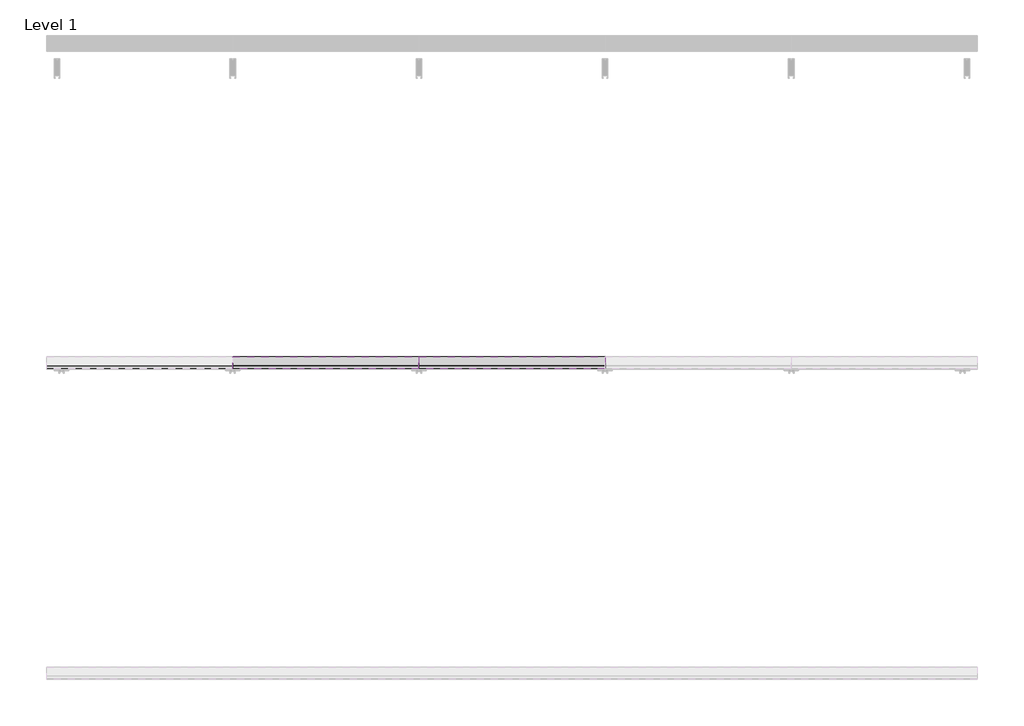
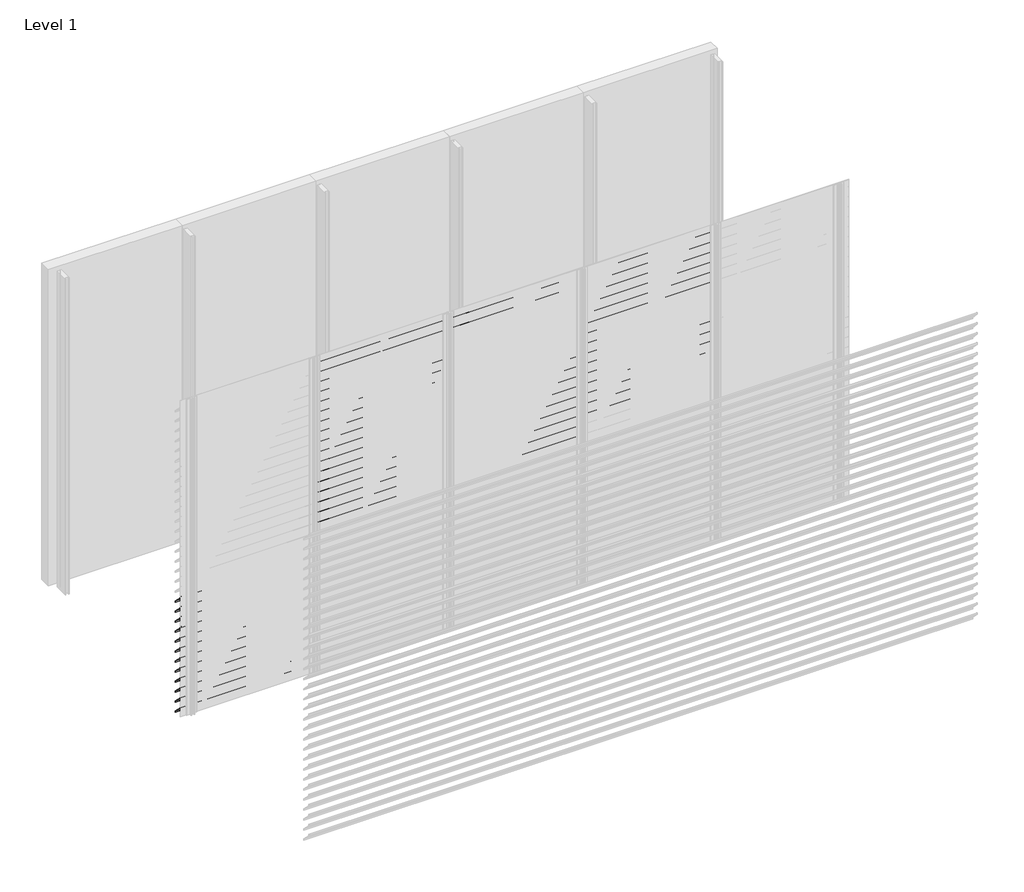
# One storey, part 4 of 24: 89 proxies.
"""IFC4 building model written with IfcOpenShell, lengths in millimetres."""

from ifc_helpers import new_model, si_unit, frame, origin, place, context, project, spatial, polyline, outline, extrude, element, save

model = new_model("IFC4")

# Units and contexts
model_context = context("Model", 3, world=origin())
ifc_project = project(units=[si_unit("LENGTHUNIT", "METRE", prefix="MILLI")], contexts=[model_context])

# Site, building, storey
site = spatial("IfcSite", under=ifc_project)
building = spatial("IfcBuilding", under=site)
storey = spatial("IfcBuildingStorey", under=building, Name="Level 1", Elevation=0.0)

# Proxies
placement = place(None, origin())
element("IfcBuildingElementProxy", 1, Name="Wall Sweeps", at=placement, inside=storey, context=model_context, shape_type="SweptSolid", body=[
    extrude(outline(polyline([(-53920.8, 1037.9), (-53922.3, 1037.9), (-53922.3, 1050.1762333), (-53998.0, 1125.4561238), (-53998.0, 1140.0), (-53996.5, 1140.0), (-53996.5, 1126.0798905), (-53920.8, 1050.8), (-53920.8, 1037.9)])), frame((0.0, 0.0, 0.0), z_axis=(1.0, 0.0, 0.0), x_axis=(0.0, 1.0, 0.0)), (0.0, 0.0, 1.0), 1200.0),
])
element("IfcBuildingElementProxy", 2, Name="Wall Sweeps", at=placement, inside=storey, context=model_context, shape_type="SweptSolid", body=[
    extrude(outline(polyline([(-53920.8, 942.9), (-53922.3, 942.9), (-53922.3, 955.1762333), (-53998.0, 1030.4561238), (-53998.0, 1045.0), (-53996.5, 1045.0), (-53996.5, 1031.0798905), (-53920.8, 955.8), (-53920.8, 942.9)])), frame((0.0, 0.0, 0.0), z_axis=(1.0, 0.0, 0.0), x_axis=(0.0, 1.0, 0.0)), (0.0, 0.0, 1.0), 1200.0),
])
element("IfcBuildingElementProxy", 3, Name="Wall Sweeps", at=placement, inside=storey, context=model_context, shape_type="SweptSolid", body=[
    extrude(outline(polyline([(-53920.8, 847.9), (-53922.3, 847.9), (-53922.3, 860.1762333), (-53998.0, 935.4561238), (-53998.0, 950.0), (-53996.5, 950.0), (-53996.5, 936.0798905), (-53920.8, 860.8), (-53920.8, 847.9)])), frame((0.0, 0.0, 0.0), z_axis=(1.0, 0.0, 0.0), x_axis=(0.0, 1.0, 0.0)), (0.0, 0.0, 1.0), 1200.0),
])
element("IfcBuildingElementProxy", 4, Name="Wall Sweeps", at=placement, inside=storey, context=model_context, shape_type="SweptSolid", body=[
    extrude(outline(polyline([(-53920.8, 752.9), (-53922.3, 752.9), (-53922.3, 765.1762333), (-53998.0, 840.4561238), (-53998.0, 855.0), (-53996.5, 855.0), (-53996.5, 841.0798905), (-53920.8, 765.8), (-53920.8, 752.9)])), frame((0.0, 0.0, 0.0), z_axis=(1.0, 0.0, 0.0), x_axis=(0.0, 1.0, 0.0)), (0.0, 0.0, 1.0), 1200.0),
])
element("IfcBuildingElementProxy", 5, Name="Wall Sweeps", at=placement, inside=storey, context=model_context, shape_type="SweptSolid", body=[
    extrude(outline(polyline([(-53920.8, 657.9), (-53922.3, 657.9), (-53922.3, 670.1762333), (-53998.0, 745.4561238), (-53998.0, 760.0), (-53996.5, 760.0), (-53996.5, 746.0798905), (-53920.8, 670.8), (-53920.8, 657.9)])), frame((0.0, 0.0, 0.0), z_axis=(1.0, 0.0, 0.0), x_axis=(0.0, 1.0, 0.0)), (0.0, 0.0, 1.0), 1200.0),
])
element("IfcBuildingElementProxy", 6, Name="Wall Sweeps", at=placement, inside=storey, context=model_context, shape_type="SweptSolid", body=[
    extrude(outline(polyline([(-53920.8, 562.9), (-53922.3, 562.9), (-53922.3, 575.1762333), (-53998.0, 650.4561238), (-53998.0, 665.0), (-53996.5, 665.0), (-53996.5, 651.0798905), (-53920.8, 575.8), (-53920.8, 562.9)])), frame((0.0, 0.0, 0.0), z_axis=(1.0, 0.0, 0.0), x_axis=(0.0, 1.0, 0.0)), (0.0, 0.0, 1.0), 1200.0),
])
element("IfcBuildingElementProxy", 7, Name="Wall Sweeps", at=placement, inside=storey, context=model_context, shape_type="SweptSolid", body=[
    extrude(outline(polyline([(-53920.8, 467.9), (-53922.3, 467.9), (-53922.3, 480.1762333), (-53998.0, 555.4561238), (-53998.0, 570.0), (-53996.5, 570.0), (-53996.5, 556.0798905), (-53920.8, 480.8), (-53920.8, 467.9)])), frame((0.0, 0.0, 0.0), z_axis=(1.0, 0.0, 0.0), x_axis=(0.0, 1.0, 0.0)), (0.0, 0.0, 1.0), 1200.0),
])
element("IfcBuildingElementProxy", 8, Name="Wall Sweeps", at=placement, inside=storey, context=model_context, shape_type="SweptSolid", body=[
    extrude(outline(polyline([(-53920.8, 372.9), (-53922.3, 372.9), (-53922.3, 385.1762333), (-53998.0, 460.4561238), (-53998.0, 475.0), (-53996.5, 475.0), (-53996.5, 461.0798905), (-53920.8, 385.8), (-53920.8, 372.9)])), frame((0.0, 0.0, 0.0), z_axis=(1.0, 0.0, 0.0), x_axis=(0.0, 1.0, 0.0)), (0.0, 0.0, 1.0), 1200.0),
])
element("IfcBuildingElementProxy", 9, Name="Wall Sweeps", at=placement, inside=storey, context=model_context, shape_type="SweptSolid", body=[
    extrude(outline(polyline([(-53920.8, 277.9), (-53922.3, 277.9), (-53922.3, 290.1762333), (-53998.0, 365.4561238), (-53998.0, 380.0), (-53996.5, 380.0), (-53996.5, 366.0798905), (-53920.8, 290.8), (-53920.8, 277.9)])), frame((0.0, 0.0, 0.0), z_axis=(1.0, 0.0, 0.0), x_axis=(0.0, 1.0, 0.0)), (0.0, 0.0, 1.0), 1200.0),
])
element("IfcBuildingElementProxy", 10, Name="Wall Sweeps", at=placement, inside=storey, context=model_context, shape_type="SweptSolid", body=[
    extrude(outline(polyline([(-53920.8, 182.9), (-53922.3, 182.9), (-53922.3, 195.1762333), (-53998.0, 270.4561238), (-53998.0, 285.0), (-53996.5, 285.0), (-53996.5, 271.0798905), (-53920.8, 195.8), (-53920.8, 182.9)])), frame((0.0, 0.0, 0.0), z_axis=(1.0, 0.0, 0.0), x_axis=(0.0, 1.0, 0.0)), (0.0, 0.0, 1.0), 1200.0),
])
element("IfcBuildingElementProxy", 11, Name="Wall Sweeps", at=placement, inside=storey, context=model_context, shape_type="SweptSolid", body=[
    extrude(outline(polyline([(-53920.8, 87.9), (-53922.3, 87.9), (-53922.3, 100.1762333), (-53998.0, 175.4561238), (-53998.0, 190.0), (-53996.5, 190.0), (-53996.5, 176.0798905), (-53920.8, 100.8), (-53920.8, 87.9)])), frame((0.0, 0.0, 0.0), z_axis=(1.0, 0.0, 0.0), x_axis=(0.0, 1.0, 0.0)), (0.0, 0.0, 1.0), 1200.0),
])
element("IfcBuildingElementProxy", 12, Name="Wall Sweeps", at=placement, inside=storey, context=model_context, shape_type="SweptSolid", body=[
    extrude(outline(polyline([(-53920.8, -7.1), (-53922.3, -7.1), (-53922.3, 5.1762333), (-53998.0, 80.4561238), (-53998.0, 95.0), (-53996.5, 95.0), (-53996.5, 81.0798905), (-53920.8, 5.8), (-53920.8, -7.1)])), frame((0.0, 0.0, 0.0), z_axis=(1.0, 0.0, 0.0), x_axis=(0.0, 1.0, 0.0)), (0.0, 0.0, 1.0), 1200.0),
])
element("IfcBuildingElementProxy", 13, Name="Wall Sweeps", at=placement, inside=storey, context=model_context, shape_type="SweptSolid", body=[
    extrude(outline(polyline([(-53920.8, 2842.9), (-53922.3, 2842.9), (-53922.3, 2855.1762333), (-53998.0, 2930.4561238), (-53998.0, 2945.0), (-53996.5, 2945.0), (-53996.5, 2931.0798905), (-53920.8, 2855.8), (-53920.8, 2842.9)])), frame((1200.0, 0.0, 0.0), z_axis=(1.0, 0.0, 0.0), x_axis=(0.0, 1.0, 0.0)), (0.0, 0.0, 1.0), 1200.0),
])
element("IfcBuildingElementProxy", 14, Name="Wall Sweeps", at=placement, inside=storey, context=model_context, shape_type="SweptSolid", body=[
    extrude(outline(polyline([(-53920.8, 2747.9), (-53922.3, 2747.9), (-53922.3, 2760.1762333), (-53998.0, 2835.4561238), (-53998.0, 2850.0), (-53996.5, 2850.0), (-53996.5, 2836.0798905), (-53920.8, 2760.8), (-53920.8, 2747.9)])), frame((1200.0, 0.0, 0.0), z_axis=(1.0, 0.0, 0.0), x_axis=(0.0, 1.0, 0.0)), (0.0, 0.0, 1.0), 1200.0),
])
element("IfcBuildingElementProxy", 15, Name="Wall Sweeps", at=placement, inside=storey, context=model_context, shape_type="SweptSolid", body=[
    extrude(outline(polyline([(-53920.8, 2652.9), (-53922.3, 2652.9), (-53922.3, 2665.1762333), (-53998.0, 2740.4561238), (-53998.0, 2755.0), (-53996.5, 2755.0), (-53996.5, 2741.0798905), (-53920.8, 2665.8), (-53920.8, 2652.9)])), frame((1200.0, 0.0, 0.0), z_axis=(1.0, 0.0, 0.0), x_axis=(0.0, 1.0, 0.0)), (0.0, 0.0, 1.0), 1200.0),
])
element("IfcBuildingElementProxy", 16, Name="Wall Sweeps", at=placement, inside=storey, context=model_context, shape_type="SweptSolid", body=[
    extrude(outline(polyline([(-53920.8, 2557.9), (-53922.3, 2557.9), (-53922.3, 2570.1762333), (-53998.0, 2645.4561238), (-53998.0, 2660.0), (-53996.5, 2660.0), (-53996.5, 2646.0798905), (-53920.8, 2570.8), (-53920.8, 2557.9)])), frame((1200.0, 0.0, 0.0), z_axis=(1.0, 0.0, 0.0), x_axis=(0.0, 1.0, 0.0)), (0.0, 0.0, 1.0), 1200.0),
])
element("IfcBuildingElementProxy", 17, Name="Wall Sweeps", at=placement, inside=storey, context=model_context, shape_type="SweptSolid", body=[
    extrude(outline(polyline([(-53920.8, 2462.9), (-53922.3, 2462.9), (-53922.3, 2475.1762333), (-53998.0, 2550.4561238), (-53998.0, 2565.0), (-53996.5, 2565.0), (-53996.5, 2551.0798905), (-53920.8, 2475.8), (-53920.8, 2462.9)])), frame((1200.0, 0.0, 0.0), z_axis=(1.0, 0.0, 0.0), x_axis=(0.0, 1.0, 0.0)), (0.0, 0.0, 1.0), 1200.0),
])
element("IfcBuildingElementProxy", 18, Name="Wall Sweeps", at=placement, inside=storey, context=model_context, shape_type="SweptSolid", body=[
    extrude(outline(polyline([(-53920.8, 2367.9), (-53922.3, 2367.9), (-53922.3, 2380.1762333), (-53998.0, 2455.4561238), (-53998.0, 2470.0), (-53996.5, 2470.0), (-53996.5, 2456.0798905), (-53920.8, 2380.8), (-53920.8, 2367.9)])), frame((1200.0, 0.0, 0.0), z_axis=(1.0, 0.0, 0.0), x_axis=(0.0, 1.0, 0.0)), (0.0, 0.0, 1.0), 1200.0),
])
element("IfcBuildingElementProxy", 19, Name="Wall Sweeps", at=placement, inside=storey, context=model_context, shape_type="SweptSolid", body=[
    extrude(outline(polyline([(-53920.8, 2272.9), (-53922.3, 2272.9), (-53922.3, 2285.1762333), (-53998.0, 2360.4561238), (-53998.0, 2375.0), (-53996.5, 2375.0), (-53996.5, 2361.0798905), (-53920.8, 2285.8), (-53920.8, 2272.9)])), frame((1200.0, 0.0, 0.0), z_axis=(1.0, 0.0, 0.0), x_axis=(0.0, 1.0, 0.0)), (0.0, 0.0, 1.0), 1200.0),
])
element("IfcBuildingElementProxy", 20, Name="Wall Sweeps", at=placement, inside=storey, context=model_context, shape_type="SweptSolid", body=[
    extrude(outline(polyline([(-53920.8, 2177.9), (-53922.3, 2177.9), (-53922.3, 2190.1762333), (-53998.0, 2265.4561238), (-53998.0, 2280.0), (-53996.5, 2280.0), (-53996.5, 2266.0798905), (-53920.8, 2190.8), (-53920.8, 2177.9)])), frame((1200.0, 0.0, 0.0), z_axis=(1.0, 0.0, 0.0), x_axis=(0.0, 1.0, 0.0)), (0.0, 0.0, 1.0), 1200.0),
])
element("IfcBuildingElementProxy", 21, Name="Wall Sweeps", at=placement, inside=storey, context=model_context, shape_type="SweptSolid", body=[
    extrude(outline(polyline([(-53920.8, 2082.9), (-53922.3, 2082.9), (-53922.3, 2095.1762333), (-53998.0, 2170.4561238), (-53998.0, 2185.0), (-53996.5, 2185.0), (-53996.5, 2171.0798905), (-53920.8, 2095.8), (-53920.8, 2082.9)])), frame((1200.0, 0.0, 0.0), z_axis=(1.0, 0.0, 0.0), x_axis=(0.0, 1.0, 0.0)), (0.0, 0.0, 1.0), 1200.0),
])
element("IfcBuildingElementProxy", 22, Name="Wall Sweeps", at=placement, inside=storey, context=model_context, shape_type="SweptSolid", body=[
    extrude(outline(polyline([(-53920.8, 1987.9), (-53922.3, 1987.9), (-53922.3, 2000.1762333), (-53998.0, 2075.4561238), (-53998.0, 2090.0), (-53996.5, 2090.0), (-53996.5, 2076.0798905), (-53920.8, 2000.8), (-53920.8, 1987.9)])), frame((1200.0, 0.0, 0.0), z_axis=(1.0, 0.0, 0.0), x_axis=(0.0, 1.0, 0.0)), (0.0, 0.0, 1.0), 1200.0),
])
element("IfcBuildingElementProxy", 23, Name="Wall Sweeps", at=placement, inside=storey, context=model_context, shape_type="SweptSolid", body=[
    extrude(outline(polyline([(-53920.8, 1892.9), (-53922.3, 1892.9), (-53922.3, 1905.1762333), (-53998.0, 1980.4561238), (-53998.0, 1995.0), (-53996.5, 1995.0), (-53996.5, 1981.0798905), (-53920.8, 1905.8), (-53920.8, 1892.9)])), frame((1200.0, 0.0, 0.0), z_axis=(1.0, 0.0, 0.0), x_axis=(0.0, 1.0, 0.0)), (0.0, 0.0, 1.0), 1200.0),
])
element("IfcBuildingElementProxy", 24, Name="Wall Sweeps", at=placement, inside=storey, context=model_context, shape_type="SweptSolid", body=[
    extrude(outline(polyline([(-53920.8, 1797.9), (-53922.3, 1797.9), (-53922.3, 1810.1762333), (-53998.0, 1885.4561238), (-53998.0, 1900.0), (-53996.5, 1900.0), (-53996.5, 1886.0798905), (-53920.8, 1810.8), (-53920.8, 1797.9)])), frame((1200.0, 0.0, 0.0), z_axis=(1.0, 0.0, 0.0), x_axis=(0.0, 1.0, 0.0)), (0.0, 0.0, 1.0), 1200.0),
])
element("IfcBuildingElementProxy", 25, Name="Wall Sweeps", at=placement, inside=storey, context=model_context, shape_type="SweptSolid", body=[
    extrude(outline(polyline([(-53920.8, 1702.9), (-53922.3, 1702.9), (-53922.3, 1715.1762333), (-53998.0, 1790.4561238), (-53998.0, 1805.0), (-53996.5, 1805.0), (-53996.5, 1791.0798905), (-53920.8, 1715.8), (-53920.8, 1702.9)])), frame((1200.0, 0.0, 0.0), z_axis=(1.0, 0.0, 0.0), x_axis=(0.0, 1.0, 0.0)), (0.0, 0.0, 1.0), 1200.0),
])
element("IfcBuildingElementProxy", 26, Name="Wall Sweeps", at=placement, inside=storey, context=model_context, shape_type="SweptSolid", body=[
    extrude(outline(polyline([(-53920.8, 1607.9), (-53922.3, 1607.9), (-53922.3, 1620.1762333), (-53998.0, 1695.4561238), (-53998.0, 1710.0), (-53996.5, 1710.0), (-53996.5, 1696.0798905), (-53920.8, 1620.8), (-53920.8, 1607.9)])), frame((1200.0, 0.0, 0.0), z_axis=(1.0, 0.0, 0.0), x_axis=(0.0, 1.0, 0.0)), (0.0, 0.0, 1.0), 1200.0),
])
element("IfcBuildingElementProxy", 27, Name="Wall Sweeps", at=placement, inside=storey, context=model_context, shape_type="SweptSolid", body=[
    extrude(outline(polyline([(-53920.8, 1512.9), (-53922.3, 1512.9), (-53922.3, 1525.1762333), (-53998.0, 1600.4561238), (-53998.0, 1615.0), (-53996.5, 1615.0), (-53996.5, 1601.0798905), (-53920.8, 1525.8), (-53920.8, 1512.9)])), frame((1200.0, 0.0, 0.0), z_axis=(1.0, 0.0, 0.0), x_axis=(0.0, 1.0, 0.0)), (0.0, 0.0, 1.0), 1200.0),
])
element("IfcBuildingElementProxy", 28, Name="Wall Sweeps", at=placement, inside=storey, context=model_context, shape_type="SweptSolid", body=[
    extrude(outline(polyline([(-53920.8, 1417.9), (-53922.3, 1417.9), (-53922.3, 1430.1762333), (-53998.0, 1505.4561238), (-53998.0, 1520.0), (-53996.5, 1520.0), (-53996.5, 1506.0798905), (-53920.8, 1430.8), (-53920.8, 1417.9)])), frame((1200.0, 0.0, 0.0), z_axis=(1.0, 0.0, 0.0), x_axis=(0.0, 1.0, 0.0)), (0.0, 0.0, 1.0), 1200.0),
])
element("IfcBuildingElementProxy", 29, Name="Wall Sweeps", at=placement, inside=storey, context=model_context, shape_type="SweptSolid", body=[
    extrude(outline(polyline([(-53920.8, 1322.9), (-53922.3, 1322.9), (-53922.3, 1335.1762333), (-53998.0, 1410.4561238), (-53998.0, 1425.0), (-53996.5, 1425.0), (-53996.5, 1411.0798905), (-53920.8, 1335.8), (-53920.8, 1322.9)])), frame((1200.0, 0.0, 0.0), z_axis=(1.0, 0.0, 0.0), x_axis=(0.0, 1.0, 0.0)), (0.0, 0.0, 1.0), 1200.0),
])
element("IfcBuildingElementProxy", 30, Name="Wall Sweeps", at=placement, inside=storey, context=model_context, shape_type="SweptSolid", body=[
    extrude(outline(polyline([(-53920.8, 1227.9), (-53922.3, 1227.9), (-53922.3, 1240.1762333), (-53998.0, 1315.4561238), (-53998.0, 1330.0), (-53996.5, 1330.0), (-53996.5, 1316.0798905), (-53920.8, 1240.8), (-53920.8, 1227.9)])), frame((1200.0, 0.0, 0.0), z_axis=(1.0, 0.0, 0.0), x_axis=(0.0, 1.0, 0.0)), (0.0, 0.0, 1.0), 1200.0),
])
element("IfcBuildingElementProxy", 31, Name="Wall Sweeps", at=placement, inside=storey, context=model_context, shape_type="SweptSolid", body=[
    extrude(outline(polyline([(-53920.8, 1132.9), (-53922.3, 1132.9), (-53922.3, 1145.1762333), (-53998.0, 1220.4561238), (-53998.0, 1235.0), (-53996.5, 1235.0), (-53996.5, 1221.0798905), (-53920.8, 1145.8), (-53920.8, 1132.9)])), frame((1200.0, 0.0, 0.0), z_axis=(1.0, 0.0, 0.0), x_axis=(0.0, 1.0, 0.0)), (0.0, 0.0, 1.0), 1200.0),
])
element("IfcBuildingElementProxy", 32, Name="Wall Sweeps", at=placement, inside=storey, context=model_context, shape_type="SweptSolid", body=[
    extrude(outline(polyline([(-53920.8, 1037.9), (-53922.3, 1037.9), (-53922.3, 1050.1762333), (-53998.0, 1125.4561238), (-53998.0, 1140.0), (-53996.5, 1140.0), (-53996.5, 1126.0798905), (-53920.8, 1050.8), (-53920.8, 1037.9)])), frame((1200.0, 0.0, 0.0), z_axis=(1.0, 0.0, 0.0), x_axis=(0.0, 1.0, 0.0)), (0.0, 0.0, 1.0), 1200.0),
])
element("IfcBuildingElementProxy", 33, Name="Wall Sweeps", at=placement, inside=storey, context=model_context, shape_type="SweptSolid", body=[
    extrude(outline(polyline([(-53920.8, 942.9), (-53922.3, 942.9), (-53922.3, 955.1762333), (-53998.0, 1030.4561238), (-53998.0, 1045.0), (-53996.5, 1045.0), (-53996.5, 1031.0798905), (-53920.8, 955.8), (-53920.8, 942.9)])), frame((1200.0, 0.0, 0.0), z_axis=(1.0, 0.0, 0.0), x_axis=(0.0, 1.0, 0.0)), (0.0, 0.0, 1.0), 1200.0),
])
element("IfcBuildingElementProxy", 34, Name="Wall Sweeps", at=placement, inside=storey, context=model_context, shape_type="SweptSolid", body=[
    extrude(outline(polyline([(-53920.8, 847.9), (-53922.3, 847.9), (-53922.3, 860.1762333), (-53998.0, 935.4561238), (-53998.0, 950.0), (-53996.5, 950.0), (-53996.5, 936.0798905), (-53920.8, 860.8), (-53920.8, 847.9)])), frame((1200.0, 0.0, 0.0), z_axis=(1.0, 0.0, 0.0), x_axis=(0.0, 1.0, 0.0)), (0.0, 0.0, 1.0), 1200.0),
])
element("IfcBuildingElementProxy", 35, Name="Wall Sweeps", at=placement, inside=storey, context=model_context, shape_type="SweptSolid", body=[
    extrude(outline(polyline([(-53920.8, 752.9), (-53922.3, 752.9), (-53922.3, 765.1762333), (-53998.0, 840.4561238), (-53998.0, 855.0), (-53996.5, 855.0), (-53996.5, 841.0798905), (-53920.8, 765.8), (-53920.8, 752.9)])), frame((1200.0, 0.0, 0.0), z_axis=(1.0, 0.0, 0.0), x_axis=(0.0, 1.0, 0.0)), (0.0, 0.0, 1.0), 1200.0),
])
element("IfcBuildingElementProxy", 36, Name="Wall Sweeps", at=placement, inside=storey, context=model_context, shape_type="SweptSolid", body=[
    extrude(outline(polyline([(-53920.8, 657.9), (-53922.3, 657.9), (-53922.3, 670.1762333), (-53998.0, 745.4561238), (-53998.0, 760.0), (-53996.5, 760.0), (-53996.5, 746.0798905), (-53920.8, 670.8), (-53920.8, 657.9)])), frame((1200.0, 0.0, 0.0), z_axis=(1.0, 0.0, 0.0), x_axis=(0.0, 1.0, 0.0)), (0.0, 0.0, 1.0), 1200.0),
])
element("IfcBuildingElementProxy", 37, Name="Wall Sweeps", at=placement, inside=storey, context=model_context, shape_type="SweptSolid", body=[
    extrude(outline(polyline([(-53920.8, 562.9), (-53922.3, 562.9), (-53922.3, 575.1762333), (-53998.0, 650.4561238), (-53998.0, 665.0), (-53996.5, 665.0), (-53996.5, 651.0798905), (-53920.8, 575.8), (-53920.8, 562.9)])), frame((1200.0, 0.0, 0.0), z_axis=(1.0, 0.0, 0.0), x_axis=(0.0, 1.0, 0.0)), (0.0, 0.0, 1.0), 1200.0),
])
element("IfcBuildingElementProxy", 38, Name="Wall Sweeps", at=placement, inside=storey, context=model_context, shape_type="SweptSolid", body=[
    extrude(outline(polyline([(-53920.8, 467.9), (-53922.3, 467.9), (-53922.3, 480.1762333), (-53998.0, 555.4561238), (-53998.0, 570.0), (-53996.5, 570.0), (-53996.5, 556.0798905), (-53920.8, 480.8), (-53920.8, 467.9)])), frame((1200.0, 0.0, 0.0), z_axis=(1.0, 0.0, 0.0), x_axis=(0.0, 1.0, 0.0)), (0.0, 0.0, 1.0), 1200.0),
])
element("IfcBuildingElementProxy", 39, Name="Wall Sweeps", at=placement, inside=storey, context=model_context, shape_type="SweptSolid", body=[
    extrude(outline(polyline([(-53920.8, 372.9), (-53922.3, 372.9), (-53922.3, 385.1762333), (-53998.0, 460.4561238), (-53998.0, 475.0), (-53996.5, 475.0), (-53996.5, 461.0798905), (-53920.8, 385.8), (-53920.8, 372.9)])), frame((1200.0, 0.0, 0.0), z_axis=(1.0, 0.0, 0.0), x_axis=(0.0, 1.0, 0.0)), (0.0, 0.0, 1.0), 1200.0),
])
element("IfcBuildingElementProxy", 40, Name="Wall Sweeps", at=placement, inside=storey, context=model_context, shape_type="SweptSolid", body=[
    extrude(outline(polyline([(-53920.8, 277.9), (-53922.3, 277.9), (-53922.3, 290.1762333), (-53998.0, 365.4561238), (-53998.0, 380.0), (-53996.5, 380.0), (-53996.5, 366.0798905), (-53920.8, 290.8), (-53920.8, 277.9)])), frame((1200.0, 0.0, 0.0), z_axis=(1.0, 0.0, 0.0), x_axis=(0.0, 1.0, 0.0)), (0.0, 0.0, 1.0), 1200.0),
])
element("IfcBuildingElementProxy", 41, Name="Wall Sweeps", at=placement, inside=storey, context=model_context, shape_type="SweptSolid", body=[
    extrude(outline(polyline([(-53920.8, 182.9), (-53922.3, 182.9), (-53922.3, 195.1762333), (-53998.0, 270.4561238), (-53998.0, 285.0), (-53996.5, 285.0), (-53996.5, 271.0798905), (-53920.8, 195.8), (-53920.8, 182.9)])), frame((1200.0, 0.0, 0.0), z_axis=(1.0, 0.0, 0.0), x_axis=(0.0, 1.0, 0.0)), (0.0, 0.0, 1.0), 1200.0),
])
element("IfcBuildingElementProxy", 42, Name="Wall Sweeps", at=placement, inside=storey, context=model_context, shape_type="SweptSolid", body=[
    extrude(outline(polyline([(-53920.8, 87.9), (-53922.3, 87.9), (-53922.3, 100.1762333), (-53998.0, 175.4561238), (-53998.0, 190.0), (-53996.5, 190.0), (-53996.5, 176.0798905), (-53920.8, 100.8), (-53920.8, 87.9)])), frame((1200.0, 0.0, 0.0), z_axis=(1.0, 0.0, 0.0), x_axis=(0.0, 1.0, 0.0)), (0.0, 0.0, 1.0), 1200.0),
])
element("IfcBuildingElementProxy", 43, Name="Wall Sweeps", at=placement, inside=storey, context=model_context, shape_type="SweptSolid", body=[
    extrude(outline(polyline([(-53920.8, -7.1), (-53922.3, -7.1), (-53922.3, 5.1762333), (-53998.0, 80.4561238), (-53998.0, 95.0), (-53996.5, 95.0), (-53996.5, 81.0798905), (-53920.8, 5.8), (-53920.8, -7.1)])), frame((1200.0, 0.0, 0.0), z_axis=(1.0, 0.0, 0.0), x_axis=(0.0, 1.0, 0.0)), (0.0, 0.0, 1.0), 1200.0),
])
element("IfcBuildingElementProxy", 44, Name="Wall Sweeps", at=placement, inside=storey, context=model_context, shape_type="SweptSolid", body=[
    extrude(outline(polyline([(-53920.8, 2842.9), (-53922.3, 2842.9), (-53922.3, 2855.1762333), (-53998.0, 2930.4561238), (-53998.0, 2945.0), (-53996.5, 2945.0), (-53996.5, 2931.0798905), (-53920.8, 2855.8), (-53920.8, 2842.9)])), frame((2400.0, 0.0, 0.0), z_axis=(1.0, 0.0, 0.0), x_axis=(0.0, 1.0, 0.0)), (0.0, 0.0, 1.0), 1200.0),
])
element("IfcBuildingElementProxy", 45, Name="Wall Sweeps", at=placement, inside=storey, context=model_context, shape_type="SweptSolid", body=[
    extrude(outline(polyline([(-53920.8, 2747.9), (-53922.3, 2747.9), (-53922.3, 2760.1762333), (-53998.0, 2835.4561238), (-53998.0, 2850.0), (-53996.5, 2850.0), (-53996.5, 2836.0798905), (-53920.8, 2760.8), (-53920.8, 2747.9)])), frame((2400.0, 0.0, 0.0), z_axis=(1.0, 0.0, 0.0), x_axis=(0.0, 1.0, 0.0)), (0.0, 0.0, 1.0), 1200.0),
])
element("IfcBuildingElementProxy", 46, Name="Wall Sweeps", at=placement, inside=storey, context=model_context, shape_type="SweptSolid", body=[
    extrude(outline(polyline([(-53920.8, 2652.9), (-53922.3, 2652.9), (-53922.3, 2665.1762333), (-53998.0, 2740.4561238), (-53998.0, 2755.0), (-53996.5, 2755.0), (-53996.5, 2741.0798905), (-53920.8, 2665.8), (-53920.8, 2652.9)])), frame((2400.0, 0.0, 0.0), z_axis=(1.0, 0.0, 0.0), x_axis=(0.0, 1.0, 0.0)), (0.0, 0.0, 1.0), 1200.0),
])
element("IfcBuildingElementProxy", 47, Name="Wall Sweeps", at=placement, inside=storey, context=model_context, shape_type="SweptSolid", body=[
    extrude(outline(polyline([(-53920.8, 2557.9), (-53922.3, 2557.9), (-53922.3, 2570.1762333), (-53998.0, 2645.4561238), (-53998.0, 2660.0), (-53996.5, 2660.0), (-53996.5, 2646.0798905), (-53920.8, 2570.8), (-53920.8, 2557.9)])), frame((2400.0, 0.0, 0.0), z_axis=(1.0, 0.0, 0.0), x_axis=(0.0, 1.0, 0.0)), (0.0, 0.0, 1.0), 1200.0),
])
element("IfcBuildingElementProxy", 48, Name="Wall Sweeps", at=placement, inside=storey, context=model_context, shape_type="SweptSolid", body=[
    extrude(outline(polyline([(-53920.8, 2462.9), (-53922.3, 2462.9), (-53922.3, 2475.1762333), (-53998.0, 2550.4561238), (-53998.0, 2565.0), (-53996.5, 2565.0), (-53996.5, 2551.0798905), (-53920.8, 2475.8), (-53920.8, 2462.9)])), frame((2400.0, 0.0, 0.0), z_axis=(1.0, 0.0, 0.0), x_axis=(0.0, 1.0, 0.0)), (0.0, 0.0, 1.0), 1200.0),
])
element("IfcBuildingElementProxy", 49, Name="Wall Sweeps", at=placement, inside=storey, context=model_context, shape_type="SweptSolid", body=[
    extrude(outline(polyline([(-53920.8, 2367.9), (-53922.3, 2367.9), (-53922.3, 2380.1762333), (-53998.0, 2455.4561238), (-53998.0, 2470.0), (-53996.5, 2470.0), (-53996.5, 2456.0798905), (-53920.8, 2380.8), (-53920.8, 2367.9)])), frame((2400.0, 0.0, 0.0), z_axis=(1.0, 0.0, 0.0), x_axis=(0.0, 1.0, 0.0)), (0.0, 0.0, 1.0), 1200.0),
])
element("IfcBuildingElementProxy", 50, Name="Wall Sweeps", at=placement, inside=storey, context=model_context, shape_type="SweptSolid", body=[
    extrude(outline(polyline([(-53920.8, 2272.9), (-53922.3, 2272.9), (-53922.3, 2285.1762333), (-53998.0, 2360.4561238), (-53998.0, 2375.0), (-53996.5, 2375.0), (-53996.5, 2361.0798905), (-53920.8, 2285.8), (-53920.8, 2272.9)])), frame((2400.0, 0.0, 0.0), z_axis=(1.0, 0.0, 0.0), x_axis=(0.0, 1.0, 0.0)), (0.0, 0.0, 1.0), 1200.0),
])
element("IfcBuildingElementProxy", 51, Name="Wall Sweeps", at=placement, inside=storey, context=model_context, shape_type="SweptSolid", body=[
    extrude(outline(polyline([(-53920.8, 2177.9), (-53922.3, 2177.9), (-53922.3, 2190.1762333), (-53998.0, 2265.4561238), (-53998.0, 2280.0), (-53996.5, 2280.0), (-53996.5, 2266.0798905), (-53920.8, 2190.8), (-53920.8, 2177.9)])), frame((2400.0, 0.0, 0.0), z_axis=(1.0, 0.0, 0.0), x_axis=(0.0, 1.0, 0.0)), (0.0, 0.0, 1.0), 1200.0),
])
element("IfcBuildingElementProxy", 52, Name="Wall Sweeps", at=placement, inside=storey, context=model_context, shape_type="SweptSolid", body=[
    extrude(outline(polyline([(-53920.8, 2082.9), (-53922.3, 2082.9), (-53922.3, 2095.1762333), (-53998.0, 2170.4561238), (-53998.0, 2185.0), (-53996.5, 2185.0), (-53996.5, 2171.0798905), (-53920.8, 2095.8), (-53920.8, 2082.9)])), frame((2400.0, 0.0, 0.0), z_axis=(1.0, 0.0, 0.0), x_axis=(0.0, 1.0, 0.0)), (0.0, 0.0, 1.0), 1200.0),
])
element("IfcBuildingElementProxy", 53, Name="Wall Sweeps", at=placement, inside=storey, context=model_context, shape_type="SweptSolid", body=[
    extrude(outline(polyline([(-53920.8, 1987.9), (-53922.3, 1987.9), (-53922.3, 2000.1762333), (-53998.0, 2075.4561238), (-53998.0, 2090.0), (-53996.5, 2090.0), (-53996.5, 2076.0798905), (-53920.8, 2000.8), (-53920.8, 1987.9)])), frame((2400.0, 0.0, 0.0), z_axis=(1.0, 0.0, 0.0), x_axis=(0.0, 1.0, 0.0)), (0.0, 0.0, 1.0), 1200.0),
])
element("IfcBuildingElementProxy", 54, Name="Wall Sweeps", at=placement, inside=storey, context=model_context, shape_type="SweptSolid", body=[
    extrude(outline(polyline([(-53920.8, 1892.9), (-53922.3, 1892.9), (-53922.3, 1905.1762333), (-53998.0, 1980.4561238), (-53998.0, 1995.0), (-53996.5, 1995.0), (-53996.5, 1981.0798905), (-53920.8, 1905.8), (-53920.8, 1892.9)])), frame((2400.0, 0.0, 0.0), z_axis=(1.0, 0.0, 0.0), x_axis=(0.0, 1.0, 0.0)), (0.0, 0.0, 1.0), 1200.0),
])
element("IfcBuildingElementProxy", 55, Name="Wall Sweeps", at=placement, inside=storey, context=model_context, shape_type="SweptSolid", body=[
    extrude(outline(polyline([(-53920.8, 1797.9), (-53922.3, 1797.9), (-53922.3, 1810.1762333), (-53998.0, 1885.4561238), (-53998.0, 1900.0), (-53996.5, 1900.0), (-53996.5, 1886.0798905), (-53920.8, 1810.8), (-53920.8, 1797.9)])), frame((2400.0, 0.0, 0.0), z_axis=(1.0, 0.0, 0.0), x_axis=(0.0, 1.0, 0.0)), (0.0, 0.0, 1.0), 1200.0),
])
element("IfcBuildingElementProxy", 56, Name="Wall Sweeps", at=placement, inside=storey, context=model_context, shape_type="SweptSolid", body=[
    extrude(outline(polyline([(-53920.8, 1702.9), (-53922.3, 1702.9), (-53922.3, 1715.1762333), (-53998.0, 1790.4561238), (-53998.0, 1805.0), (-53996.5, 1805.0), (-53996.5, 1791.0798905), (-53920.8, 1715.8), (-53920.8, 1702.9)])), frame((2400.0, 0.0, 0.0), z_axis=(1.0, 0.0, 0.0), x_axis=(0.0, 1.0, 0.0)), (0.0, 0.0, 1.0), 1200.0),
])
element("IfcBuildingElementProxy", 57, Name="Wall Sweeps", at=placement, inside=storey, context=model_context, shape_type="SweptSolid", body=[
    extrude(outline(polyline([(-53920.8, 1607.9), (-53922.3, 1607.9), (-53922.3, 1620.1762333), (-53998.0, 1695.4561238), (-53998.0, 1710.0), (-53996.5, 1710.0), (-53996.5, 1696.0798905), (-53920.8, 1620.8), (-53920.8, 1607.9)])), frame((2400.0, 0.0, 0.0), z_axis=(1.0, 0.0, 0.0), x_axis=(0.0, 1.0, 0.0)), (0.0, 0.0, 1.0), 1200.0),
])
element("IfcBuildingElementProxy", 58, Name="Wall Sweeps", at=placement, inside=storey, context=model_context, shape_type="SweptSolid", body=[
    extrude(outline(polyline([(-53920.8, 1512.9), (-53922.3, 1512.9), (-53922.3, 1525.1762333), (-53998.0, 1600.4561238), (-53998.0, 1615.0), (-53996.5, 1615.0), (-53996.5, 1601.0798905), (-53920.8, 1525.8), (-53920.8, 1512.9)])), frame((2400.0, 0.0, 0.0), z_axis=(1.0, 0.0, 0.0), x_axis=(0.0, 1.0, 0.0)), (0.0, 0.0, 1.0), 1200.0),
])
element("IfcBuildingElementProxy", 59, Name="Wall Sweeps", at=placement, inside=storey, context=model_context, shape_type="SweptSolid", body=[
    extrude(outline(polyline([(-53920.8, 1417.9), (-53922.3, 1417.9), (-53922.3, 1430.1762333), (-53998.0, 1505.4561238), (-53998.0, 1520.0), (-53996.5, 1520.0), (-53996.5, 1506.0798905), (-53920.8, 1430.8), (-53920.8, 1417.9)])), frame((2400.0, 0.0, 0.0), z_axis=(1.0, 0.0, 0.0), x_axis=(0.0, 1.0, 0.0)), (0.0, 0.0, 1.0), 1200.0),
])
element("IfcBuildingElementProxy", 60, Name="Wall Sweeps", at=placement, inside=storey, context=model_context, shape_type="SweptSolid", body=[
    extrude(outline(polyline([(-53920.8, 1322.9), (-53922.3, 1322.9), (-53922.3, 1335.1762333), (-53998.0, 1410.4561238), (-53998.0, 1425.0), (-53996.5, 1425.0), (-53996.5, 1411.0798905), (-53920.8, 1335.8), (-53920.8, 1322.9)])), frame((2400.0, 0.0, 0.0), z_axis=(1.0, 0.0, 0.0), x_axis=(0.0, 1.0, 0.0)), (0.0, 0.0, 1.0), 1200.0),
])
element("IfcBuildingElementProxy", 61, Name="Wall Sweeps", at=placement, inside=storey, context=model_context, shape_type="SweptSolid", body=[
    extrude(outline(polyline([(-53920.8, 1227.9), (-53922.3, 1227.9), (-53922.3, 1240.1762333), (-53998.0, 1315.4561238), (-53998.0, 1330.0), (-53996.5, 1330.0), (-53996.5, 1316.0798905), (-53920.8, 1240.8), (-53920.8, 1227.9)])), frame((2400.0, 0.0, 0.0), z_axis=(1.0, 0.0, 0.0), x_axis=(0.0, 1.0, 0.0)), (0.0, 0.0, 1.0), 1200.0),
])
element("IfcBuildingElementProxy", 62, Name="Wall Sweeps", at=placement, inside=storey, context=model_context, shape_type="SweptSolid", body=[
    extrude(outline(polyline([(-53920.8, 1132.9), (-53922.3, 1132.9), (-53922.3, 1145.1762333), (-53998.0, 1220.4561238), (-53998.0, 1235.0), (-53996.5, 1235.0), (-53996.5, 1221.0798905), (-53920.8, 1145.8), (-53920.8, 1132.9)])), frame((2400.0, 0.0, 0.0), z_axis=(1.0, 0.0, 0.0), x_axis=(0.0, 1.0, 0.0)), (0.0, 0.0, 1.0), 1200.0),
])
element("IfcBuildingElementProxy", 63, Name="Wall Sweeps", at=placement, inside=storey, context=model_context, shape_type="SweptSolid", body=[
    extrude(outline(polyline([(-53920.8, 1037.9), (-53922.3, 1037.9), (-53922.3, 1050.1762333), (-53998.0, 1125.4561238), (-53998.0, 1140.0), (-53996.5, 1140.0), (-53996.5, 1126.0798905), (-53920.8, 1050.8), (-53920.8, 1037.9)])), frame((2400.0, 0.0, 0.0), z_axis=(1.0, 0.0, 0.0), x_axis=(0.0, 1.0, 0.0)), (0.0, 0.0, 1.0), 1200.0),
])
element("IfcBuildingElementProxy", 64, Name="Wall Sweeps", at=placement, inside=storey, context=model_context, shape_type="SweptSolid", body=[
    extrude(outline(polyline([(-53920.8, 942.9), (-53922.3, 942.9), (-53922.3, 955.1762333), (-53998.0, 1030.4561238), (-53998.0, 1045.0), (-53996.5, 1045.0), (-53996.5, 1031.0798905), (-53920.8, 955.8), (-53920.8, 942.9)])), frame((2400.0, 0.0, 0.0), z_axis=(1.0, 0.0, 0.0), x_axis=(0.0, 1.0, 0.0)), (0.0, 0.0, 1.0), 1200.0),
])
element("IfcBuildingElementProxy", 65, Name="Wall Sweeps", at=placement, inside=storey, context=model_context, shape_type="SweptSolid", body=[
    extrude(outline(polyline([(-53920.8, 847.9), (-53922.3, 847.9), (-53922.3, 860.1762333), (-53998.0, 935.4561238), (-53998.0, 950.0), (-53996.5, 950.0), (-53996.5, 936.0798905), (-53920.8, 860.8), (-53920.8, 847.9)])), frame((2400.0, 0.0, 0.0), z_axis=(1.0, 0.0, 0.0), x_axis=(0.0, 1.0, 0.0)), (0.0, 0.0, 1.0), 1200.0),
])
element("IfcBuildingElementProxy", 66, Name="Wall Sweeps", at=placement, inside=storey, context=model_context, shape_type="SweptSolid", body=[
    extrude(outline(polyline([(-53920.8, 752.9), (-53922.3, 752.9), (-53922.3, 765.1762333), (-53998.0, 840.4561238), (-53998.0, 855.0), (-53996.5, 855.0), (-53996.5, 841.0798905), (-53920.8, 765.8), (-53920.8, 752.9)])), frame((2400.0, 0.0, 0.0), z_axis=(1.0, 0.0, 0.0), x_axis=(0.0, 1.0, 0.0)), (0.0, 0.0, 1.0), 1200.0),
])
element("IfcBuildingElementProxy", 67, Name="Wall Sweeps", at=placement, inside=storey, context=model_context, shape_type="SweptSolid", body=[
    extrude(outline(polyline([(-53920.8, 657.9), (-53922.3, 657.9), (-53922.3, 670.1762333), (-53998.0, 745.4561238), (-53998.0, 760.0), (-53996.5, 760.0), (-53996.5, 746.0798905), (-53920.8, 670.8), (-53920.8, 657.9)])), frame((2400.0, 0.0, 0.0), z_axis=(1.0, 0.0, 0.0), x_axis=(0.0, 1.0, 0.0)), (0.0, 0.0, 1.0), 1200.0),
])
element("IfcBuildingElementProxy", 68, Name="Wall Sweeps", at=placement, inside=storey, context=model_context, shape_type="SweptSolid", body=[
    extrude(outline(polyline([(-53920.8, 562.9), (-53922.3, 562.9), (-53922.3, 575.1762333), (-53998.0, 650.4561238), (-53998.0, 665.0), (-53996.5, 665.0), (-53996.5, 651.0798905), (-53920.8, 575.8), (-53920.8, 562.9)])), frame((2400.0, 0.0, 0.0), z_axis=(1.0, 0.0, 0.0), x_axis=(0.0, 1.0, 0.0)), (0.0, 0.0, 1.0), 1200.0),
])
element("IfcBuildingElementProxy", 69, Name="Wall Sweeps", at=placement, inside=storey, context=model_context, shape_type="SweptSolid", body=[
    extrude(outline(polyline([(-53920.8, 467.9), (-53922.3, 467.9), (-53922.3, 480.1762333), (-53998.0, 555.4561238), (-53998.0, 570.0), (-53996.5, 570.0), (-53996.5, 556.0798905), (-53920.8, 480.8), (-53920.8, 467.9)])), frame((2400.0, 0.0, 0.0), z_axis=(1.0, 0.0, 0.0), x_axis=(0.0, 1.0, 0.0)), (0.0, 0.0, 1.0), 1200.0),
])
element("IfcBuildingElementProxy", 70, Name="Wall Sweeps", at=placement, inside=storey, context=model_context, shape_type="SweptSolid", body=[
    extrude(outline(polyline([(-53920.8, 372.9), (-53922.3, 372.9), (-53922.3, 385.1762333), (-53998.0, 460.4561238), (-53998.0, 475.0), (-53996.5, 475.0), (-53996.5, 461.0798905), (-53920.8, 385.8), (-53920.8, 372.9)])), frame((2400.0, 0.0, 0.0), z_axis=(1.0, 0.0, 0.0), x_axis=(0.0, 1.0, 0.0)), (0.0, 0.0, 1.0), 1200.0),
])
element("IfcBuildingElementProxy", 71, Name="Wall Sweeps", at=placement, inside=storey, context=model_context, shape_type="SweptSolid", body=[
    extrude(outline(polyline([(-53920.8, 277.9), (-53922.3, 277.9), (-53922.3, 290.1762333), (-53998.0, 365.4561238), (-53998.0, 380.0), (-53996.5, 380.0), (-53996.5, 366.0798905), (-53920.8, 290.8), (-53920.8, 277.9)])), frame((2400.0, 0.0, 0.0), z_axis=(1.0, 0.0, 0.0), x_axis=(0.0, 1.0, 0.0)), (0.0, 0.0, 1.0), 1200.0),
])
element("IfcBuildingElementProxy", 72, Name="Wall Sweeps", at=placement, inside=storey, context=model_context, shape_type="SweptSolid", body=[
    extrude(outline(polyline([(-53920.8, 182.9), (-53922.3, 182.9), (-53922.3, 195.1762333), (-53998.0, 270.4561238), (-53998.0, 285.0), (-53996.5, 285.0), (-53996.5, 271.0798905), (-53920.8, 195.8), (-53920.8, 182.9)])), frame((2400.0, 0.0, 0.0), z_axis=(1.0, 0.0, 0.0), x_axis=(0.0, 1.0, 0.0)), (0.0, 0.0, 1.0), 1200.0),
])
element("IfcBuildingElementProxy", 73, Name="Wall Sweeps", at=placement, inside=storey, context=model_context, shape_type="SweptSolid", body=[
    extrude(outline(polyline([(-53920.8, 87.9), (-53922.3, 87.9), (-53922.3, 100.1762333), (-53998.0, 175.4561238), (-53998.0, 190.0), (-53996.5, 190.0), (-53996.5, 176.0798905), (-53920.8, 100.8), (-53920.8, 87.9)])), frame((2400.0, 0.0, 0.0), z_axis=(1.0, 0.0, 0.0), x_axis=(0.0, 1.0, 0.0)), (0.0, 0.0, 1.0), 1200.0),
])
element("IfcBuildingElementProxy", 74, Name="Wall Sweeps", at=placement, inside=storey, context=model_context, shape_type="SweptSolid", body=[
    extrude(outline(polyline([(-53920.8, -7.1), (-53922.3, -7.1), (-53922.3, 5.1762333), (-53998.0, 80.4561238), (-53998.0, 95.0), (-53996.5, 95.0), (-53996.5, 81.0798905), (-53920.8, 5.8), (-53920.8, -7.1)])), frame((2400.0, 0.0, 0.0), z_axis=(1.0, 0.0, 0.0), x_axis=(0.0, 1.0, 0.0)), (0.0, 0.0, 1.0), 1200.0),
])
element("IfcBuildingElementProxy", 75, Name="Wall Sweeps", at=placement, inside=storey, context=model_context, shape_type="SweptSolid", body=[
    extrude(outline(polyline([(-53920.8, 2842.9), (-53922.3, 2842.9), (-53922.3, 2855.1762333), (-53998.0, 2930.4561238), (-53998.0, 2945.0), (-53996.5, 2945.0), (-53996.5, 2931.0798905), (-53920.8, 2855.8), (-53920.8, 2842.9)])), frame((3600.0, 0.0, 0.0), z_axis=(1.0, 0.0, 0.0), x_axis=(0.0, 1.0, 0.0)), (0.0, 0.0, 1.0), 1200.0),
])
element("IfcBuildingElementProxy", 76, Name="Wall Sweeps", at=placement, inside=storey, context=model_context, shape_type="SweptSolid", body=[
    extrude(outline(polyline([(-53920.8, 2747.9), (-53922.3, 2747.9), (-53922.3, 2760.1762333), (-53998.0, 2835.4561238), (-53998.0, 2850.0), (-53996.5, 2850.0), (-53996.5, 2836.0798905), (-53920.8, 2760.8), (-53920.8, 2747.9)])), frame((3600.0, 0.0, 0.0), z_axis=(1.0, 0.0, 0.0), x_axis=(0.0, 1.0, 0.0)), (0.0, 0.0, 1.0), 1200.0),
])
element("IfcBuildingElementProxy", 77, Name="Wall Sweeps", at=placement, inside=storey, context=model_context, shape_type="SweptSolid", body=[
    extrude(outline(polyline([(-53920.8, 2652.9), (-53922.3, 2652.9), (-53922.3, 2665.1762333), (-53998.0, 2740.4561238), (-53998.0, 2755.0), (-53996.5, 2755.0), (-53996.5, 2741.0798905), (-53920.8, 2665.8), (-53920.8, 2652.9)])), frame((3600.0, 0.0, 0.0), z_axis=(1.0, 0.0, 0.0), x_axis=(0.0, 1.0, 0.0)), (0.0, 0.0, 1.0), 1200.0),
])
element("IfcBuildingElementProxy", 78, Name="Wall Sweeps", at=placement, inside=storey, context=model_context, shape_type="SweptSolid", body=[
    extrude(outline(polyline([(-53920.8, 2557.9), (-53922.3, 2557.9), (-53922.3, 2570.1762333), (-53998.0, 2645.4561238), (-53998.0, 2660.0), (-53996.5, 2660.0), (-53996.5, 2646.0798905), (-53920.8, 2570.8), (-53920.8, 2557.9)])), frame((3600.0, 0.0, 0.0), z_axis=(1.0, 0.0, 0.0), x_axis=(0.0, 1.0, 0.0)), (0.0, 0.0, 1.0), 1200.0),
])
element("IfcBuildingElementProxy", 79, Name="Wall Sweeps", at=placement, inside=storey, context=model_context, shape_type="SweptSolid", body=[
    extrude(outline(polyline([(-53920.8, 2462.9), (-53922.3, 2462.9), (-53922.3, 2475.1762333), (-53998.0, 2550.4561238), (-53998.0, 2565.0), (-53996.5, 2565.0), (-53996.5, 2551.0798905), (-53920.8, 2475.8), (-53920.8, 2462.9)])), frame((3600.0, 0.0, 0.0), z_axis=(1.0, 0.0, 0.0), x_axis=(0.0, 1.0, 0.0)), (0.0, 0.0, 1.0), 1200.0),
])
element("IfcBuildingElementProxy", 80, Name="Wall Sweeps", at=placement, inside=storey, context=model_context, shape_type="SweptSolid", body=[
    extrude(outline(polyline([(-53920.8, 2367.9), (-53922.3, 2367.9), (-53922.3, 2380.1762333), (-53998.0, 2455.4561238), (-53998.0, 2470.0), (-53996.5, 2470.0), (-53996.5, 2456.0798905), (-53920.8, 2380.8), (-53920.8, 2367.9)])), frame((3600.0, 0.0, 0.0), z_axis=(1.0, 0.0, 0.0), x_axis=(0.0, 1.0, 0.0)), (0.0, 0.0, 1.0), 1200.0),
])
element("IfcBuildingElementProxy", 81, Name="Wall Sweeps", at=placement, inside=storey, context=model_context, shape_type="SweptSolid", body=[
    extrude(outline(polyline([(-53920.8, 2272.9), (-53922.3, 2272.9), (-53922.3, 2285.1762333), (-53998.0, 2360.4561238), (-53998.0, 2375.0), (-53996.5, 2375.0), (-53996.5, 2361.0798905), (-53920.8, 2285.8), (-53920.8, 2272.9)])), frame((3600.0, 0.0, 0.0), z_axis=(1.0, 0.0, 0.0), x_axis=(0.0, 1.0, 0.0)), (0.0, 0.0, 1.0), 1200.0),
])
element("IfcBuildingElementProxy", 82, Name="Wall Sweeps", at=placement, inside=storey, context=model_context, shape_type="SweptSolid", body=[
    extrude(outline(polyline([(-53920.8, 2177.9), (-53922.3, 2177.9), (-53922.3, 2190.1762333), (-53998.0, 2265.4561238), (-53998.0, 2280.0), (-53996.5, 2280.0), (-53996.5, 2266.0798905), (-53920.8, 2190.8), (-53920.8, 2177.9)])), frame((3600.0, 0.0, 0.0), z_axis=(1.0, 0.0, 0.0), x_axis=(0.0, 1.0, 0.0)), (0.0, 0.0, 1.0), 1200.0),
])
element("IfcBuildingElementProxy", 83, Name="Wall Sweeps", at=placement, inside=storey, context=model_context, shape_type="SweptSolid", body=[
    extrude(outline(polyline([(-53920.8, 2082.9), (-53922.3, 2082.9), (-53922.3, 2095.1762333), (-53998.0, 2170.4561238), (-53998.0, 2185.0), (-53996.5, 2185.0), (-53996.5, 2171.0798905), (-53920.8, 2095.8), (-53920.8, 2082.9)])), frame((3600.0, 0.0, 0.0), z_axis=(1.0, 0.0, 0.0), x_axis=(0.0, 1.0, 0.0)), (0.0, 0.0, 1.0), 1200.0),
])
element("IfcBuildingElementProxy", 84, Name="Wall Sweeps", at=placement, inside=storey, context=model_context, shape_type="SweptSolid", body=[
    extrude(outline(polyline([(-53920.8, 1987.9), (-53922.3, 1987.9), (-53922.3, 2000.1762333), (-53998.0, 2075.4561238), (-53998.0, 2090.0), (-53996.5, 2090.0), (-53996.5, 2076.0798905), (-53920.8, 2000.8), (-53920.8, 1987.9)])), frame((3600.0, 0.0, 0.0), z_axis=(1.0, 0.0, 0.0), x_axis=(0.0, 1.0, 0.0)), (0.0, 0.0, 1.0), 1200.0),
])
element("IfcBuildingElementProxy", 85, Name="Wall Sweeps", at=placement, inside=storey, context=model_context, shape_type="SweptSolid", body=[
    extrude(outline(polyline([(-53920.8, 1892.9), (-53922.3, 1892.9), (-53922.3, 1905.1762333), (-53998.0, 1980.4561238), (-53998.0, 1995.0), (-53996.5, 1995.0), (-53996.5, 1981.0798905), (-53920.8, 1905.8), (-53920.8, 1892.9)])), frame((3600.0, 0.0, 0.0), z_axis=(1.0, 0.0, 0.0), x_axis=(0.0, 1.0, 0.0)), (0.0, 0.0, 1.0), 1200.0),
])
element("IfcBuildingElementProxy", 86, Name="Wall Sweeps", at=placement, inside=storey, context=model_context, shape_type="SweptSolid", body=[
    extrude(outline(polyline([(-53920.8, 1797.9), (-53922.3, 1797.9), (-53922.3, 1810.1762333), (-53998.0, 1885.4561238), (-53998.0, 1900.0), (-53996.5, 1900.0), (-53996.5, 1886.0798905), (-53920.8, 1810.8), (-53920.8, 1797.9)])), frame((3600.0, 0.0, 0.0), z_axis=(1.0, 0.0, 0.0), x_axis=(0.0, 1.0, 0.0)), (0.0, 0.0, 1.0), 1200.0),
])
element("IfcBuildingElementProxy", 87, Name="Wall Sweeps", at=placement, inside=storey, context=model_context, shape_type="SweptSolid", body=[
    extrude(outline(polyline([(-53920.8, 1702.9), (-53922.3, 1702.9), (-53922.3, 1715.1762333), (-53998.0, 1790.4561238), (-53998.0, 1805.0), (-53996.5, 1805.0), (-53996.5, 1791.0798905), (-53920.8, 1715.8), (-53920.8, 1702.9)])), frame((3600.0, 0.0, 0.0), z_axis=(1.0, 0.0, 0.0), x_axis=(0.0, 1.0, 0.0)), (0.0, 0.0, 1.0), 1200.0),
])
element("IfcBuildingElementProxy", 88, Name="Wall Sweeps", at=placement, inside=storey, context=model_context, shape_type="SweptSolid", body=[
    extrude(outline(polyline([(-53920.8, 1607.9), (-53922.3, 1607.9), (-53922.3, 1620.1762333), (-53998.0, 1695.4561238), (-53998.0, 1710.0), (-53996.5, 1710.0), (-53996.5, 1696.0798905), (-53920.8, 1620.8), (-53920.8, 1607.9)])), frame((3600.0, 0.0, 0.0), z_axis=(1.0, 0.0, 0.0), x_axis=(0.0, 1.0, 0.0)), (0.0, 0.0, 1.0), 1200.0),
])
element("IfcBuildingElementProxy", 89, Name="Wall Sweeps", at=placement, inside=storey, context=model_context, shape_type="SweptSolid", body=[
    extrude(outline(polyline([(-53920.8, 1512.9), (-53922.3, 1512.9), (-53922.3, 1525.1762333), (-53998.0, 1600.4561238), (-53998.0, 1615.0), (-53996.5, 1615.0), (-53996.5, 1601.0798905), (-53920.8, 1525.8), (-53920.8, 1512.9)])), frame((3600.0, 0.0, 0.0), z_axis=(1.0, 0.0, 0.0), x_axis=(0.0, 1.0, 0.0)), (0.0, 0.0, 1.0), 1200.0),
])

save(model, "model.ifc")
